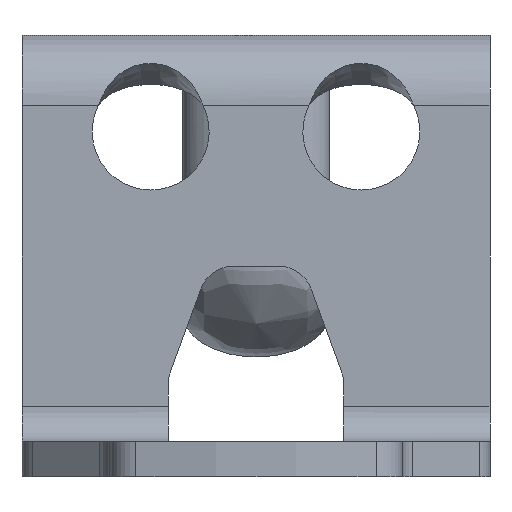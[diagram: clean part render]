
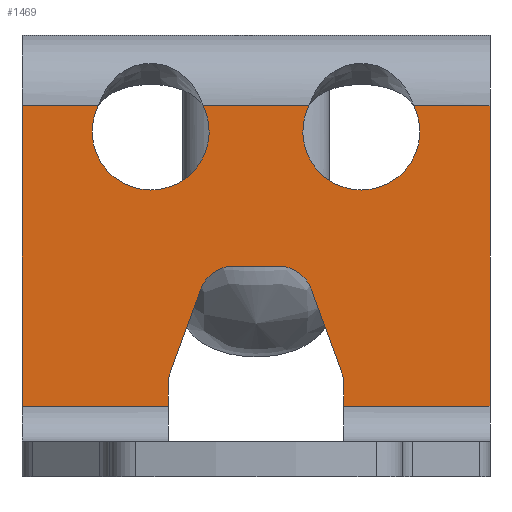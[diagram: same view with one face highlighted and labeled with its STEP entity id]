
A CAD part, left-side view. The second image highlights one B-rep face of the part: STEP entity #1469.
In plain terms, the highlighted planar face has unit normal (-1, 0, 0).
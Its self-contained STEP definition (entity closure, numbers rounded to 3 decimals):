
#76=PLANE('',#1588);
#152=LINE('',#2481,#283);
#153=LINE('',#2483,#284);
#154=LINE('',#2485,#285);
#155=LINE('',#2487,#286);
#156=LINE('',#2491,#287);
#157=LINE('',#2495,#288);
#158=LINE('',#2499,#289);
#159=LINE('',#2503,#290);
#160=LINE('',#2505,#291);
#161=LINE('',#2507,#292);
#162=LINE('',#2508,#293);
#163=LINE('',#2509,#294);
#283=VECTOR('',#1834,10.);
#284=VECTOR('',#1835,8.64);
#285=VECTOR('',#1836,10.);
#286=VECTOR('',#1837,10.);
#287=VECTOR('',#1840,10.);
#288=VECTOR('',#1843,10.);
#289=VECTOR('',#1846,10.);
#290=VECTOR('',#1849,10.);
#291=VECTOR('',#1850,10.);
#292=VECTOR('',#1851,8.64);
#293=VECTOR('',#1852,10.);
#294=VECTOR('',#1853,10.);
#390=FACE_OUTER_BOUND('',#469,.T.);
#469=EDGE_LOOP('',(#1093,#1094,#1095,#1096,#1097,#1098,#1099,#1100,#1101,
#1102,#1103,#1104,#1105,#1106,#1107,#1108,#1109,#1110));
#537=CIRCLE('',#1583,10.);
#539=CIRCLE('',#1586,10.);
#541=CIRCLE('',#1589,6.);
#542=CIRCLE('',#1590,6.);
#543=CIRCLE('',#1591,6.);
#544=CIRCLE('',#1592,6.);
#641=VERTEX_POINT('',#2389);
#642=VERTEX_POINT('',#2391);
#647=VERTEX_POINT('',#2462);
#648=VERTEX_POINT('',#2464);
#649=VERTEX_POINT('',#2480);
#650=VERTEX_POINT('',#2482);
#651=VERTEX_POINT('',#2484);
#652=VERTEX_POINT('',#2486);
#653=VERTEX_POINT('',#2488);
#654=VERTEX_POINT('',#2490);
#655=VERTEX_POINT('',#2492);
#656=VERTEX_POINT('',#2494);
#657=VERTEX_POINT('',#2496);
#658=VERTEX_POINT('',#2498);
#659=VERTEX_POINT('',#2500);
#660=VERTEX_POINT('',#2502);
#661=VERTEX_POINT('',#2504);
#662=VERTEX_POINT('',#2506);
#800=EDGE_CURVE('',#641,#642,#537,.T.);
#808=EDGE_CURVE('',#647,#648,#539,.T.);
#810=EDGE_CURVE('',#642,#649,#152,.T.);
#811=EDGE_CURVE('',#649,#650,#153,.T.);
#812=EDGE_CURVE('',#650,#651,#154,.T.);
#813=EDGE_CURVE('',#651,#652,#155,.T.);
#814=EDGE_CURVE('',#653,#652,#541,.T.);
#815=EDGE_CURVE('',#653,#654,#156,.T.);
#816=EDGE_CURVE('',#655,#654,#542,.T.);
#817=EDGE_CURVE('',#655,#656,#157,.T.);
#818=EDGE_CURVE('',#657,#656,#543,.T.);
#819=EDGE_CURVE('',#657,#658,#158,.T.);
#820=EDGE_CURVE('',#659,#658,#544,.T.);
#821=EDGE_CURVE('',#659,#660,#159,.T.);
#822=EDGE_CURVE('',#660,#661,#160,.T.);
#823=EDGE_CURVE('',#662,#661,#161,.T.);
#824=EDGE_CURVE('',#662,#647,#162,.T.);
#825=EDGE_CURVE('',#648,#641,#163,.T.);
#1093=ORIENTED_EDGE('',*,*,#800,.T.);
#1094=ORIENTED_EDGE('',*,*,#810,.T.);
#1095=ORIENTED_EDGE('',*,*,#811,.T.);
#1096=ORIENTED_EDGE('',*,*,#812,.T.);
#1097=ORIENTED_EDGE('',*,*,#813,.T.);
#1098=ORIENTED_EDGE('',*,*,#814,.F.);
#1099=ORIENTED_EDGE('',*,*,#815,.T.);
#1100=ORIENTED_EDGE('',*,*,#816,.F.);
#1101=ORIENTED_EDGE('',*,*,#817,.T.);
#1102=ORIENTED_EDGE('',*,*,#818,.F.);
#1103=ORIENTED_EDGE('',*,*,#819,.T.);
#1104=ORIENTED_EDGE('',*,*,#820,.F.);
#1105=ORIENTED_EDGE('',*,*,#821,.T.);
#1106=ORIENTED_EDGE('',*,*,#822,.T.);
#1107=ORIENTED_EDGE('',*,*,#823,.F.);
#1108=ORIENTED_EDGE('',*,*,#824,.T.);
#1109=ORIENTED_EDGE('',*,*,#808,.T.);
#1110=ORIENTED_EDGE('',*,*,#825,.T.);
#1469=ADVANCED_FACE('',(#390),#76,.T.);
#1583=AXIS2_PLACEMENT_3D('',#2404,#1818,#1819);
#1586=AXIS2_PLACEMENT_3D('',#2477,#1828,#1829);
#1588=AXIS2_PLACEMENT_3D('',#2479,#1832,#1833);
#1589=AXIS2_PLACEMENT_3D('',#2489,#1838,#1839);
#1590=AXIS2_PLACEMENT_3D('',#2493,#1841,#1842);
#1591=AXIS2_PLACEMENT_3D('',#2497,#1844,#1845);
#1592=AXIS2_PLACEMENT_3D('',#2501,#1847,#1848);
#1818=DIRECTION('center_axis',(1.,0.,0.));
#1819=DIRECTION('ref_axis',(0.,0.,1.));
#1828=DIRECTION('center_axis',(1.,0.,0.));
#1829=DIRECTION('ref_axis',(0.,0.,1.));
#1832=DIRECTION('center_axis',(-1.,0.,0.));
#1833=DIRECTION('ref_axis',(0.,0.,1.));
#1834=DIRECTION('',(0.,1.,0.));
#1835=DIRECTION('',(0.,0.,-1.));
#1836=DIRECTION('',(0.,-1.,0.));
#1837=DIRECTION('',(0.,0.,1.));
#1838=DIRECTION('center_axis',(-1.,0.,0.));
#1839=DIRECTION('ref_axis',(0.,0.984,0.176));
#1840=DIRECTION('',(0.,-0.346,0.938));
#1841=DIRECTION('center_axis',(-1.,0.,0.));
#1842=DIRECTION('ref_axis',(0.,0.572,0.82));
#1843=DIRECTION('',(0.,-1.,0.));
#1844=DIRECTION('center_axis',(-1.,0.,0.));
#1845=DIRECTION('ref_axis',(0.,-0.572,0.82));
#1846=DIRECTION('',(0.,-0.346,-0.938));
#1847=DIRECTION('center_axis',(-1.,0.,0.));
#1848=DIRECTION('ref_axis',(0.,-0.984,0.176));
#1849=DIRECTION('',(0.,0.,-1.));
#1850=DIRECTION('',(0.,-1.,0.));
#1851=DIRECTION('',(0.,0.,-1.));
#1852=DIRECTION('',(0.,1.,0.));
#1853=DIRECTION('',(0.,1.,0.));
#2389=CARTESIAN_POINT('',(-6.,9.045,63.45));
#2391=CARTESIAN_POINT('',(-6.,26.955,63.45));
#2404=CARTESIAN_POINT('Origin',(-6.,18.,59.));
#2462=CARTESIAN_POINT('',(-6.,-26.955,63.45));
#2464=CARTESIAN_POINT('',(-6.,-9.045,63.45));
#2477=CARTESIAN_POINT('Origin',(-6.,-18.,59.));
#2479=CARTESIAN_POINT('Origin',(-6.,0.,36.939));
#2480=CARTESIAN_POINT('',(-6.,40.,63.45));
#2481=CARTESIAN_POINT('',(-6.,-20.,63.45));
#2482=CARTESIAN_POINT('',(-6.,40.,12.));
#2483=CARTESIAN_POINT('',(-6.,40.,-15.143));
#2484=CARTESIAN_POINT('',(-6.,15.,12.));
#2485=CARTESIAN_POINT('',(-6.,0.,12.));
#2486=CARTESIAN_POINT('',(-6.,15.,15.93));
#2487=CARTESIAN_POINT('',(-6.,15.,26.97));
#2488=CARTESIAN_POINT('',(-6.,14.63,18.004));
#2489=CARTESIAN_POINT('Origin',(-6.,9.,15.93));
#2490=CARTESIAN_POINT('',(-6.,9.446,32.074));
#2491=CARTESIAN_POINT('',(-6.,7.37,37.711));
#2492=CARTESIAN_POINT('',(-6.,3.816,36.));
#2493=CARTESIAN_POINT('Origin',(-6.,3.816,30.));
#2494=CARTESIAN_POINT('',(-6.,-3.816,36.));
#2495=CARTESIAN_POINT('',(-6.,-4.,36.));
#2496=CARTESIAN_POINT('',(-6.,-9.446,32.074));
#2497=CARTESIAN_POINT('Origin',(-6.,-3.816,30.));
#2498=CARTESIAN_POINT('',(-6.,-14.63,18.004));
#2499=CARTESIAN_POINT('',(-6.,-10.87,28.211));
#2500=CARTESIAN_POINT('',(-6.,-15.,15.93));
#2501=CARTESIAN_POINT('Origin',(-6.,-9.,15.93));
#2502=CARTESIAN_POINT('',(-6.,-15.,12.));
#2503=CARTESIAN_POINT('',(-6.,-15.,18.47));
#2504=CARTESIAN_POINT('',(-6.,-40.,12.));
#2505=CARTESIAN_POINT('',(-6.,0.,12.));
#2506=CARTESIAN_POINT('',(-6.,-40.,63.45));
#2507=CARTESIAN_POINT('',(-6.,-40.,-15.143));
#2508=CARTESIAN_POINT('',(-6.,-20.,63.45));
#2509=CARTESIAN_POINT('',(-6.,-20.,63.45));
